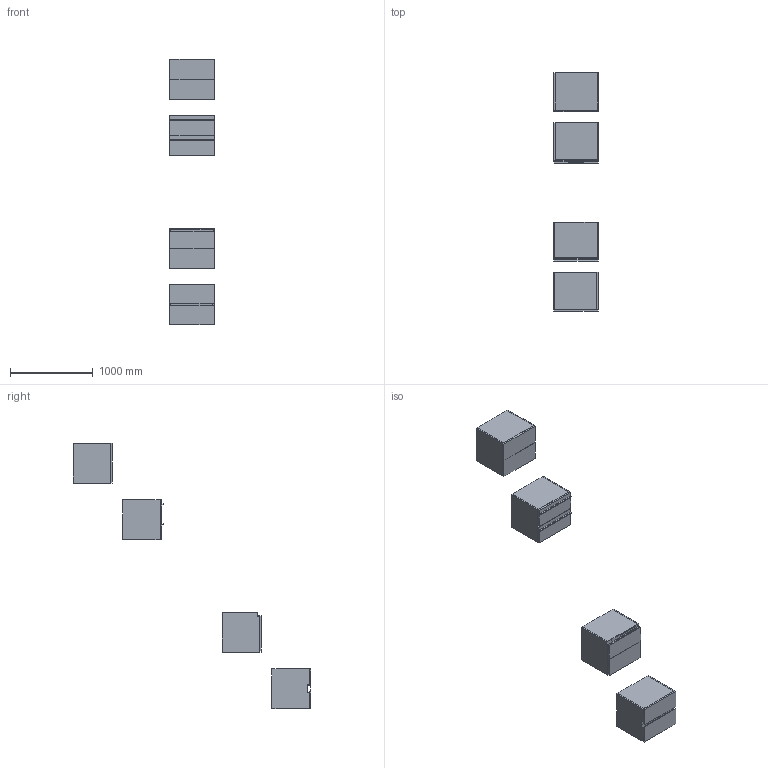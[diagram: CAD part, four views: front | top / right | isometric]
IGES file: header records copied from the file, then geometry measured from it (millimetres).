
Start section: Data from Parasolid IGES Translator 19.0.9, Copyright(c) 2006 Siemens PL M Software. All Rights Reserved.
Global section: file name: noorth-SI-H 48 D 47 W 54_8492.igs; native system: By Siemens PLM Incorporated; preprocessor: XPlus GENERIC/IGES 19.0.9; author: Noname; organization: Noname; date: 20200601.110204; units: metre
Bounding box: 542.66 x 2869.1 x 3200.01 mm (x, y, z)
Volume: 77898058.9 mm3; surface area: 11868083.8 mm2
Topology: 33 solids, 33 shells, 318 faces, 700 edges, 428 vertices
Faces by surface type: plane 230, extrusion 36, bspline 32, cylinder 20
